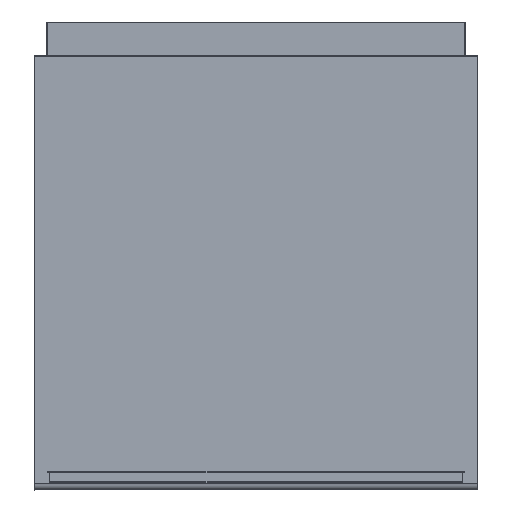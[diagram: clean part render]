
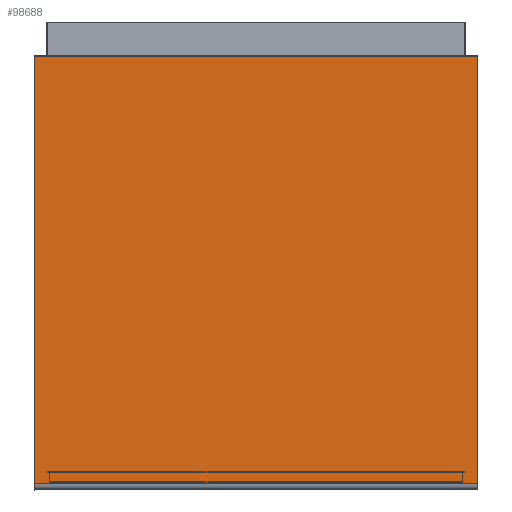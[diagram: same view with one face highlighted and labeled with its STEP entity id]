
A CAD part, top view. The second image highlights one B-rep face of the part: STEP entity #98688.
In plain terms, the highlighted planar face has unit normal (0, 0, 1).
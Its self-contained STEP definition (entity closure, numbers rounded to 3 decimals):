
#9065=LINE('',#174989,#18464);
#9066=LINE('',#174991,#18465);
#9067=LINE('',#174992,#18466);
#9068=LINE('',#174994,#18467);
#18464=VECTOR('',#123313,1000.);
#18465=VECTOR('',#123314,1000.);
#18466=VECTOR('',#123315,1000.);
#18467=VECTOR('',#123316,1000.);
#40566=ORIENTED_EDGE('',*,*,#60666,.F.);
#40567=ORIENTED_EDGE('',*,*,#60667,.T.);
#40568=ORIENTED_EDGE('',*,*,#60668,.T.);
#40569=ORIENTED_EDGE('',*,*,#60669,.T.);
#60666=EDGE_CURVE('',#72130,#72139,#9065,.T.);
#60667=EDGE_CURVE('',#72130,#72136,#9066,.T.);
#60668=EDGE_CURVE('',#72136,#72140,#9067,.T.);
#60669=EDGE_CURVE('',#72140,#72139,#9068,.T.);
#72130=VERTEX_POINT('',#174969);
#72136=VERTEX_POINT('',#174982);
#72139=VERTEX_POINT('',#174990);
#72140=VERTEX_POINT('',#174993);
#82600=EDGE_LOOP('',(#40566,#40567,#40568,#40569));
#89477=FACE_BOUND('',#82600,.T.);
#94080=PLANE('',#106434);
#98688=ADVANCED_FACE('',(#89477),#94080,.T.);
#106434=AXIS2_PLACEMENT_3D('',#174988,#123311,#123312);
#123311=DIRECTION('',(0.,0.,1.));
#123312=DIRECTION('',(0.,-1.,0.));
#123313=DIRECTION('',(1.,0.,0.));
#123314=DIRECTION('',(0.,-1.,0.));
#123315=DIRECTION('',(1.,0.,0.));
#123316=DIRECTION('',(0.,1.,0.));
#174969=CARTESIAN_POINT('',(-356.798,343.648,21.));
#174982=CARTESIAN_POINT('',(-356.798,-344.35,21.));
#174988=CARTESIAN_POINT('',(-357.5,344.35,21.));
#174989=CARTESIAN_POINT('',(-357.5,343.648,21.));
#174990=CARTESIAN_POINT('',(356.798,343.648,21.));
#174991=CARTESIAN_POINT('',(-356.798,343.648,21.));
#174992=CARTESIAN_POINT('',(-357.5,-344.35,21.));
#174993=CARTESIAN_POINT('',(356.798,-344.35,21.));
#174994=CARTESIAN_POINT('',(356.798,-344.35,21.));
